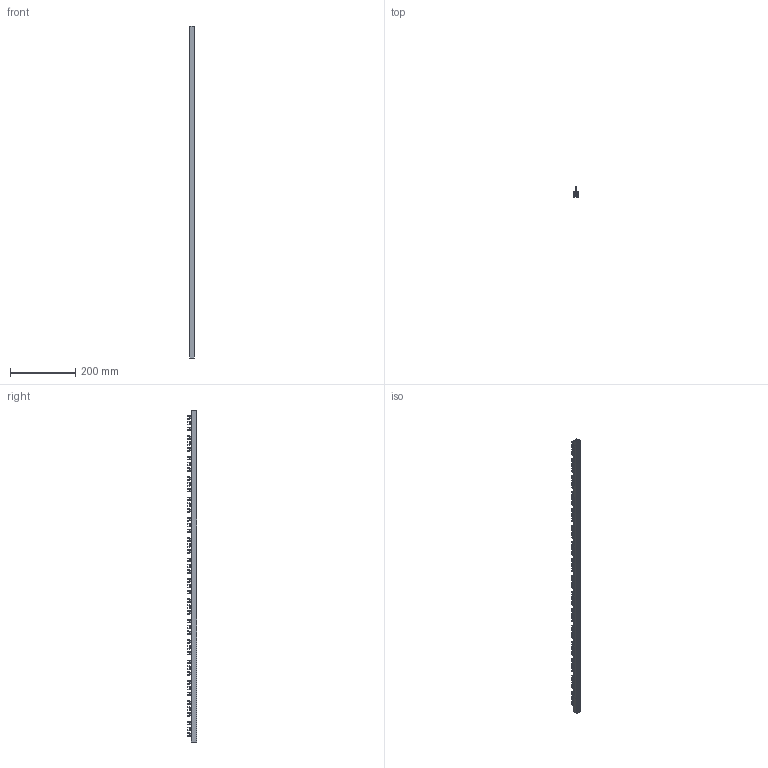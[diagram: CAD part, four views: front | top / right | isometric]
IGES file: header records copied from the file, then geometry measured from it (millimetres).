
Start section: SolidWorks IGES file using analytic representation for surfaces
Global section: file name: U:\14_RD\05_Technical_office\04_Office\Hrdinova\3D modely - IGES\Minia\G3L_plus_9-1000-16C.IGS; native system: SolidWorks 2011; preprocessor: SolidWorks 2011; author: adhrja3; date: 170615.074256; units: millimetre
Bounding box: 14.9 x 30 x 1016 mm (x, y, z)
Surface area: 272218.5 mm2 (no closed solid volume)
Topology: 0 solids, 0 shells, 1233 faces, 13734 edges, 13734 vertices
Faces by surface type: revolution 681, bspline 552
